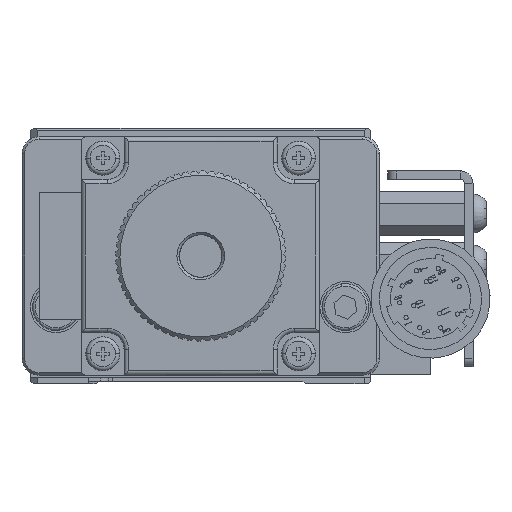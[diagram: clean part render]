
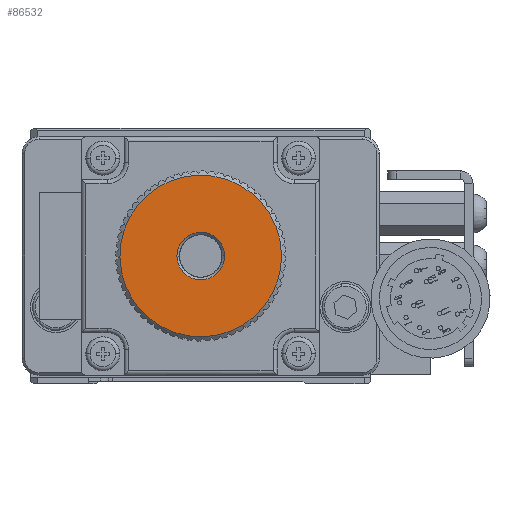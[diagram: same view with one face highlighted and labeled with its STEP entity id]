
A CAD part, front view. The second image highlights one B-rep face of the part: STEP entity #86532.
In plain terms, the highlighted planar face has unit normal (0, -1, 0).
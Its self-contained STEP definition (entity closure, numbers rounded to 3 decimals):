
#1646 = EDGE_CURVE ( 'NONE', #16857, #44068, #33155, .T. ) ;
#6763 = CIRCLE ( 'NONE', #78310, 2.8 ) ;
#12197 = DIRECTION ( 'NONE',  ( -1., 0., -0.024 ) ) ;
#12325 = CIRCLE ( 'NONE', #66027, 9.5 ) ;
#13594 = ORIENTED_EDGE ( 'NONE', *, *, #45711, .T. ) ;
#13961 = EDGE_LOOP ( 'NONE', ( #24929, #13594 ) ) ;
#16857 = VERTEX_POINT ( 'NONE', #117458 ) ;
#19037 = FACE_OUTER_BOUND ( 'NONE', #13961, .T. ) ;
#21956 = VERTEX_POINT ( 'NONE', #72805 ) ;
#23096 = CARTESIAN_POINT ( 'NONE',  ( 9.497, -103., 15.224 ) ) ;
#23926 = ORIENTED_EDGE ( 'NONE', *, *, #1646, .T. ) ;
#24929 = ORIENTED_EDGE ( 'NONE', *, *, #68088, .T. ) ;
#33155 = CIRCLE ( 'NONE', #127139, 2.8 ) ;
#39733 = AXIS2_PLACEMENT_3D ( 'NONE', #119450, #77330, #12197 ) ;
#42442 = CARTESIAN_POINT ( 'NONE',  ( 0., -103., 15. ) ) ;
#42503 = AXIS2_PLACEMENT_3D ( 'NONE', #63846, #84199, #95474 ) ;
#42734 = DIRECTION ( 'NONE',  ( 0., -1., 0. ) ) ;
#44068 = VERTEX_POINT ( 'NONE', #111318 ) ;
#45711 = EDGE_CURVE ( 'NONE', #138140, #21956, #59779, .T. ) ;
#57630 = EDGE_CURVE ( 'NONE', #44068, #16857, #6763, .T. ) ;
#59779 = CIRCLE ( 'NONE', #39733, 9.5 ) ;
#63846 = CARTESIAN_POINT ( 'NONE',  ( 0., -103., 15. ) ) ;
#66027 = AXIS2_PLACEMENT_3D ( 'NONE', #83372, #42734, #72889 ) ;
#66049 = CARTESIAN_POINT ( 'NONE',  ( 0., -103., 15. ) ) ;
#68088 = EDGE_CURVE ( 'NONE', #21956, #138140, #12325, .T. ) ;
#72805 = CARTESIAN_POINT ( 'NONE',  ( -9.497, -103., 14.776 ) ) ;
#72889 = DIRECTION ( 'NONE',  ( -1., 0., -0.024 ) ) ;
#73983 = DIRECTION ( 'NONE',  ( 0., 1., 0. ) ) ;
#77330 = DIRECTION ( 'NONE',  ( 0., -1., 0. ) ) ;
#78310 = AXIS2_PLACEMENT_3D ( 'NONE', #66049, #108931, #100462 ) ;
#82849 = FACE_BOUND ( 'NONE', #138369, .T. ) ;
#83372 = CARTESIAN_POINT ( 'NONE',  ( 0., -103., 15. ) ) ;
#84199 = DIRECTION ( 'NONE',  ( 0., 1., 0. ) ) ;
#85149 = DIRECTION ( 'NONE',  ( -1., 0., -0.024 ) ) ;
#86532 = ADVANCED_FACE ( 'NONE', ( #82849, #19037 ), #125608, .F. ) ;
#95474 = DIRECTION ( 'NONE',  ( -1., 0., -0.024 ) ) ;
#100462 = DIRECTION ( 'NONE',  ( -1., 0., -0.024 ) ) ;
#108931 = DIRECTION ( 'NONE',  ( 0., 1., 0. ) ) ;
#111318 = CARTESIAN_POINT ( 'NONE',  ( -2.799, -103., 14.934 ) ) ;
#114350 = ORIENTED_EDGE ( 'NONE', *, *, #57630, .T. ) ;
#117458 = CARTESIAN_POINT ( 'NONE',  ( 2.799, -103., 15.066 ) ) ;
#119450 = CARTESIAN_POINT ( 'NONE',  ( 0., -103., 15. ) ) ;
#125608 = PLANE ( 'NONE',  #42503 ) ;
#127139 = AXIS2_PLACEMENT_3D ( 'NONE', #42442, #73983, #85149 ) ;
#138140 = VERTEX_POINT ( 'NONE', #23096 ) ;
#138369 = EDGE_LOOP ( 'NONE', ( #23926, #114350 ) ) ;
